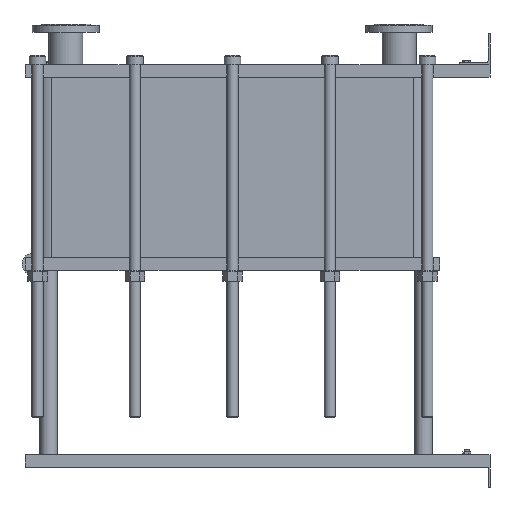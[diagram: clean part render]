
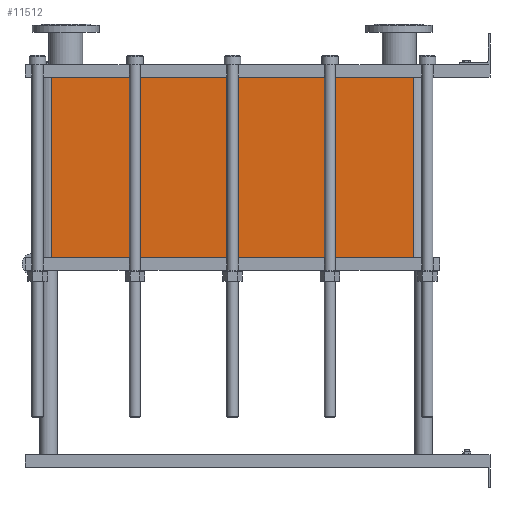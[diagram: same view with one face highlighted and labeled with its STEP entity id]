
A CAD part, left-side view. The second image highlights one B-rep face of the part: STEP entity #11512.
In plain terms, the highlighted planar face has unit normal (-1, 0, 0).
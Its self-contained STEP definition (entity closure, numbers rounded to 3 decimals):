
#1129=LINE('',#23232,#2102);
#1130=LINE('',#23236,#2103);
#1131=LINE('',#23238,#2104);
#1132=LINE('',#23239,#2105);
#2102=VECTOR('',#15887,10.);
#2103=VECTOR('',#15892,10.);
#2104=VECTOR('',#15893,10.);
#2105=VECTOR('',#15894,10.);
#3267=FACE_OUTER_BOUND('',#4093,.T.);
#4093=EDGE_LOOP('',(#10103,#10104,#10105,#10106));
#5642=VERTEX_POINT('',#23229);
#5643=VERTEX_POINT('',#23231);
#5644=VERTEX_POINT('',#23235);
#5645=VERTEX_POINT('',#23237);
#7159=EDGE_CURVE('',#5643,#5642,#1129,.T.);
#7161=EDGE_CURVE('',#5642,#5644,#1130,.T.);
#7162=EDGE_CURVE('',#5645,#5644,#1131,.T.);
#7163=EDGE_CURVE('',#5645,#5643,#1132,.T.);
#10103=ORIENTED_EDGE('',*,*,#7161,.T.);
#10104=ORIENTED_EDGE('',*,*,#7162,.F.);
#10105=ORIENTED_EDGE('',*,*,#7163,.T.);
#10106=ORIENTED_EDGE('',*,*,#7159,.T.);
#10857=PLANE('',#12751);
#11512=ADVANCED_FACE('',(#3267),#10857,.T.);
#12751=AXIS2_PLACEMENT_3D('',#23234,#15890,#15891);
#15887=DIRECTION('',(0.,0.,-1.));
#15890=DIRECTION('center_axis',(-1.,0.,0.));
#15891=DIRECTION('ref_axis',(0.,1.,0.));
#15892=DIRECTION('',(0.,-1.,0.));
#15893=DIRECTION('',(0.,0.,-1.));
#15894=DIRECTION('',(0.,1.,0.));
#23229=CARTESIAN_POINT('',(-200.,1414.,-583.05));
#23231=CARTESIAN_POINT('',(-200.,1414.,0.));
#23232=CARTESIAN_POINT('',(-200.,1414.,0.));
#23234=CARTESIAN_POINT('Origin',(-200.,248.,0.));
#23235=CARTESIAN_POINT('',(-200.,248.,-583.05));
#23236=CARTESIAN_POINT('',(-200.,539.5,-583.05));
#23237=CARTESIAN_POINT('',(-200.,248.,0.));
#23238=CARTESIAN_POINT('',(-200.,248.,0.));
#23239=CARTESIAN_POINT('',(-200.,248.,0.));
